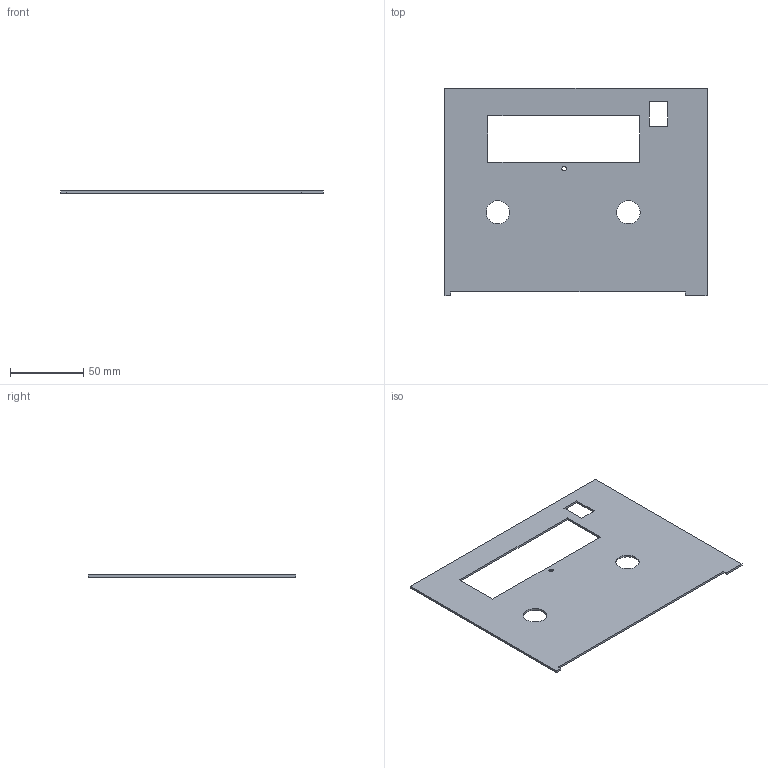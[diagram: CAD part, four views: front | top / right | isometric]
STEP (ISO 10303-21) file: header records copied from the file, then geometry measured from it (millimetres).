
FILE_DESCRIPTION(/* description */ ('Designed by EasyEDA Pro','CAx-IF Rec.Pracs.---Representation and Presentation of Product Manufacturing Information (PMI)---4.0---2014-10-13'),/* implementation_level */ '2;1');
FILE_NAME(/* name */ 'Data IO 29B Prom Shield V2 v1.step',/* time_stamp */ '2025-01-01T08:25:57-08:00',/* author */ (''),/* organization */ (''),/* preprocessor_version */ 'ST-DEVELOPER v20',/* originating_system */ 'Autodesk Translation Framework v13.20.0.188',/* authorisation */ '');
FILE_SCHEMA (('AP242_MANAGED_MODEL_BASED_3D_ENGINEERING_MIM_LF { 1 0 10303 442 1 1 4 }'));
Length unit declared in the file: millimetre
Products named in the file (2): gbbI-PCBModel; gbbI-Board
Assembly tree (1 placements, depth 2):
  gbbI-PCBModel
    gbbI-Board
Bounding box: 179.48 x 142.03 x 1.44 mm (x, y, z)
Volume: 30402.5 mm3; surface area: 43793 mm2
Topology: 1 solids, 1 shells, 23 faces, 63 edges, 42 vertices
Faces by surface type: plane 18, cylinder 5
Full cylindrical faces by diameter (mm): 3.12 x1, 16 x2
Entity records: 835 total; most frequent: CARTESIAN_POINT 131, ORIENTED_EDGE 126, DIRECTION 125, EDGE_CURVE 63, LINE 53, VECTOR 53, VERTEX_POINT 42, AXIS2_PLACEMENT_3D 36
